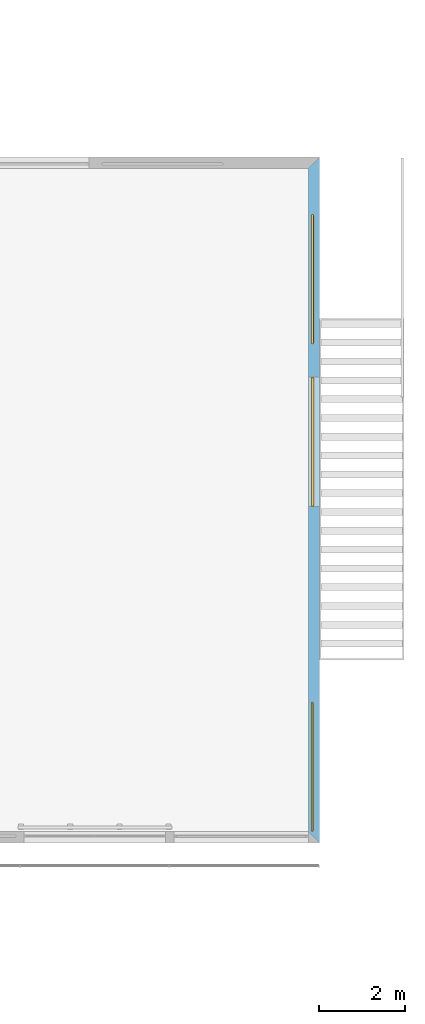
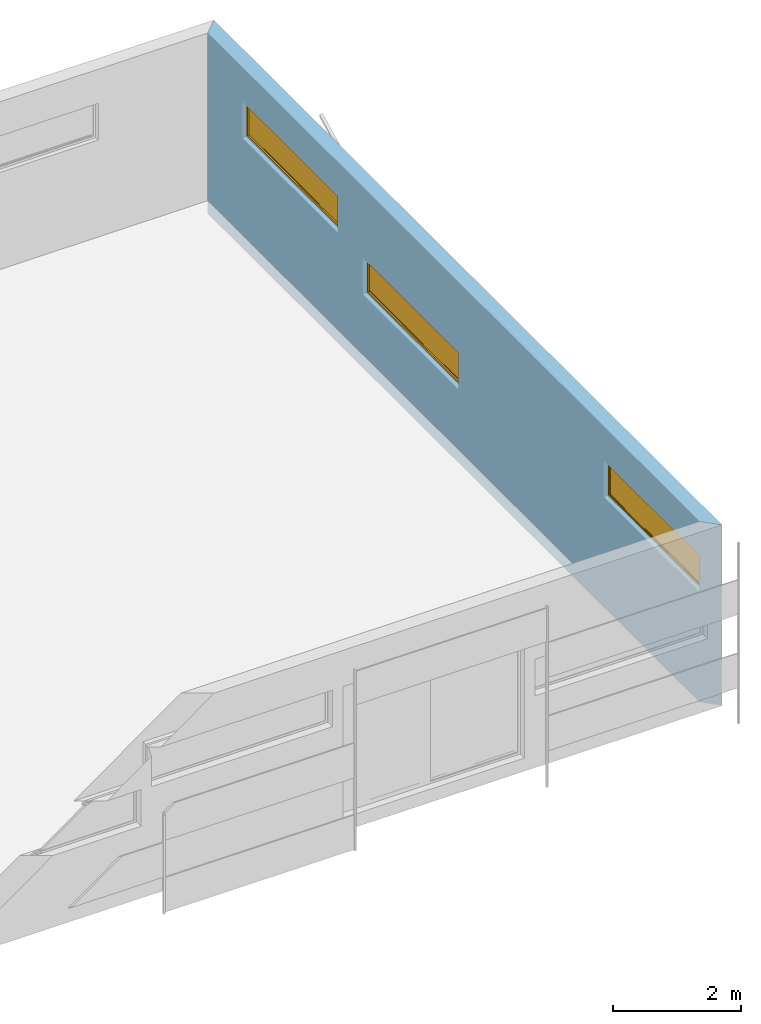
# One storey, part 12 of 14: 3 windows, 3 openings, plus 1 element that does not belong to this part.
"""IFC2X3 building model written with IfcOpenShell, lengths in metres."""

from ifc_helpers import new_model, entity, si_unit, converted_unit, money_unit, direction, frame, origin_with_axes, place, context, subcontext, project, spatial, polyline, outline, extrude, open_shell, faceted_brep, surface_model, material, layer, layer_set, layer_usage, type_object, element, fill, save


model = new_model("IFC2X3")

# Units and contexts
model_context = context("Model", 3, precision=1e-05, world=origin_with_axes(), true_north=direction((0.0, 1.0)))
body_context = subcontext(model_context, "Body", "Model", "MODEL_VIEW")
ifc_project = project(units=[si_unit("LENGTHUNIT", "METRE"), si_unit("AREAUNIT", "SQUARE_METRE"), si_unit("VOLUMEUNIT", "CUBIC_METRE"), converted_unit("PLANEANGLEUNIT", "DEGREE", entity("IfcPlaneAngleMeasure", 0.0174532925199), si_unit("PLANEANGLEUNIT", "RADIAN"), dimensions=[0, 0, 0, 0, 0, 0, 0]), si_unit("SOLIDANGLEUNIT", "STERADIAN"), money_unit("EUR"), converted_unit("TIMEUNIT", "Year", entity("IfcTimeMeasure", 31556926.0), si_unit("TIMEUNIT", "SECOND"), dimensions=[0, 0, 0, 0, 0, 0, 0]), si_unit("MASSUNIT", "GRAM"), si_unit("THERMODYNAMICTEMPERATUREUNIT", "DEGREE_CELSIUS"), si_unit("LUMINOUSINTENSITYUNIT", "LUMEN")], contexts=[model_context])

# Site, building, storey
site_placement = place(None, origin_with_axes())
site = spatial("IfcSite", under=ifc_project, at=site_placement, Name="Site", CompositionType="ELEMENT")
building_placement = place(site_placement, origin_with_axes())
building = spatial("IfcBuilding", under=site, at=building_placement, Name="Bâtiment", CompositionType="ELEMENT")
storey_placement = place(building_placement, frame((0.0, 0.0, 3.0), z_axis=(0.0, 0.0, 1.0), x_axis=(1.0, 0.0, 0.0)))
storey = spatial("IfcBuildingStorey", under=building, at=storey_placement, Name="NIVEAU HAUT ENTRÉE", CompositionType="ELEMENT", Elevation=3.0)

# Wall, openings, windows
ifc_material_1 = material(Name="Hachure solide* 3992800808")
ifc_layer_1 = layer(ifc_material_1, 0.02, ventilated="UNKNOWN")
ifc_material_2 = material(Name="Empty Fill 290923149")
ifc_layer_2 = layer(ifc_material_2, 0.08, ventilated="UNKNOWN")
ifc_material_3 = material(Name="Hachure solide* 2593434267")
ifc_layer_3 = layer(ifc_material_3, 0.16, ventilated="UNKNOWN")
ifc_layer_set = layer_set([ifc_layer_1, ifc_layer_2, ifc_layer_3], Name="•GYMN 16+10")
ifc_layer_usage = layer_usage(ifc_layer_set, "AXIS2", "POSITIVE", -0.26)
wall_type = type_object("IfcWallType", Name="•GYMN 16+10 260", PredefinedType="NOTDEFINED")
wall_placement = place(storey_placement, frame((67.258457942, 21.758815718, -0.25), z_axis=(0.0, 0.0, 1.0), x_axis=(0.0, -1.0, 0.0)))
wall = element("IfcWallStandardCase", 1, at=wall_placement, inside=storey, type_object=wall_type, material=ifc_layer_usage, Name="Mur-005", context=body_context, shape_type="SweptSolid", body=[
    extrude(outline(polyline([(0.26, -0.26), (15.63, -0.26), (15.89, 0.0), (0.0, 0.0), (0.26, -0.26)])), origin_with_axes(), (0.0, 0.0, 1.0), 3.45),
])
opening_1_placement = place(wall_placement, frame((14.13, 0.0, 2.1), z_axis=(0.0, 0.0, 1.0), x_axis=(1.0, 0.0, 0.0)))
opening_1 = element("IfcOpeningElement", 2, at=opening_1_placement, cuts=wall, Name="Fen-027", context=body_context, shape_type="SweptSolid", body=[
    extrude(outline(polyline([(-1.5, 0.7), (-1.5, 0.0), (1.5, 0.0), (1.5, 0.7), (-1.5, 0.7)])), frame((0.0, -0.18, 0.0), z_axis=(0.0, 1.0, 0.0), x_axis=(-1.0, 0.0, 0.0)), (0.0, 0.0, 1.0), 0.44),
    extrude(outline(polyline([(-1.5, 0.0), (-1.5, -0.7), (1.5, -0.7), (1.5, 0.0), (-1.5, 0.0)])), frame((0.0, -0.18, 0.0), z_axis=(0.0, -1.0, 0.0), x_axis=(-1.0, 0.0, 0.0)), (0.0, 0.0, 1.0), 0.34),
])
opening_2_placement = place(wall_placement, frame((6.5953377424, 0.0, 1.4), z_axis=(0.0, 0.0, 1.0), x_axis=(1.0, 0.0, 0.0)))
opening_2 = element("IfcOpeningElement", 3, at=opening_2_placement, cuts=wall, Name="Fen-027", context=body_context, shape_type="SweptSolid", body=[
    extrude(outline(polyline([(-1.5, 0.7), (-1.5, 0.0), (1.5, 0.0), (1.5, 0.7), (-1.5, 0.7)])), frame((0.0, -0.18, 0.0), z_axis=(0.0, 1.0, 0.0), x_axis=(-1.0, 0.0, 0.0)), (0.0, 0.0, 1.0), 0.44),
    extrude(outline(polyline([(-1.5, 0.0), (-1.5, -0.7), (1.5, -0.7), (1.5, 0.0), (-1.5, 0.0)])), frame((0.0, -0.18, 0.0), z_axis=(0.0, -1.0, 0.0), x_axis=(-1.0, 0.0, 0.0)), (0.0, 0.0, 1.0), 0.34),
])
opening_3_placement = place(wall_placement, frame((2.8314866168, 0.0, 2.1), z_axis=(0.0, 0.0, 1.0), x_axis=(1.0, 0.0, 0.0)))
opening_3 = element("IfcOpeningElement", 4, at=opening_3_placement, cuts=wall, Name="Fen-027", context=body_context, shape_type="SweptSolid", body=[
    extrude(outline(polyline([(-1.5, 0.7), (-1.5, 0.0), (1.5, 0.0), (1.5, 0.7), (-1.5, 0.7)])), frame((0.0, -0.18, 0.0), z_axis=(0.0, 1.0, 0.0), x_axis=(-1.0, 0.0, 0.0)), (0.0, 0.0, 1.0), 0.44),
    extrude(outline(polyline([(-1.5, 0.0), (-1.5, -0.7), (1.5, -0.7), (1.5, 0.0), (-1.5, 0.0)])), frame((0.0, -0.18, 0.0), z_axis=(0.0, -1.0, 0.0), x_axis=(-1.0, 0.0, 0.0)), (0.0, 0.0, 1.0), 0.34),
])
ifc_material_4 = material(Name="Sans Trame")
window_style_1 = type_object("IfcWindowStyle", Name="Fen bascule 1 10", ConstructionType="NOTDEFINED", OperationType="SINGLE_PANEL", ParameterTakesPrecedence=False, Sizeable=False)
window_1_placement = place(opening_1_placement, frame((1.5, 0.0, 0.0), z_axis=(0.0, 0.0, 1.0), x_axis=(-1.0, 0.0, 0.0)))
window_1 = element("IfcWindow", 5, at=window_1_placement, inside=storey, type_object=window_style_1, material=ifc_material_4, Name="Fen-027", OverallHeight=0.7, OverallWidth=3.0, context=body_context, shape_type="SurfaceModel", body=[
    faceted_brep([(0.015, 0.15, 0.67), (0.015, 0.165, 0.67), (0.03, 0.165, 0.67), (0.03, 0.18, 0.67), (0.0, 0.18, 0.67), (0.0, 0.15, 0.67), (0.015, 0.15, 0.03), (0.015, 0.165, 0.03), (0.03, 0.165, 0.03), (0.03, 0.18, 0.03), (0.0, 0.18, 0.03), (0.0, 0.15, 0.03)], [[[0, 1, 2, 3, 4, 5]], [[1, 0, 6, 7]], [[8, 2, 1, 7]], [[2, 8, 9, 3]], [[4, 3, 9, 10]], [[5, 4, 10, 11]], [[6, 0, 5, 11]], [[7, 6, 11, 10, 9, 8]]]),
    faceted_brep([(2.97, 0.165, 0.67), (2.985, 0.165, 0.67), (2.985, 0.15, 0.67), (3.0, 0.15, 0.67), (3.0, 0.18, 0.67), (2.97, 0.18, 0.67), (2.97, 0.165, 0.03), (2.985, 0.165, 0.03), (2.985, 0.15, 0.03), (3.0, 0.15, 0.03), (3.0, 0.18, 0.03), (2.97, 0.18, 0.03)], [[[0, 1, 2, 3, 4, 5]], [[1, 0, 6, 7]], [[8, 2, 1, 7]], [[2, 8, 9, 3]], [[9, 10, 4, 3]], [[10, 11, 5, 4]], [[6, 0, 5, 11]], [[7, 6, 11, 10, 9, 8]]]),
    faceted_brep([(0.015, 0.15, 0.67), (0.015, 0.15, 0.685), (2.985, 0.15, 0.685), (2.985, 0.15, 0.67), (3.0, 0.15, 0.67), (3.0, 0.15, 0.7), (0.0, 0.15, 0.7), (0.0, 0.15, 0.67), (0.015, 0.165, 0.67), (0.015, 0.165, 0.685), (2.985, 0.165, 0.685), (2.985, 0.165, 0.67), (2.97, 0.165, 0.67), (2.97, 0.18, 0.67), (3.0, 0.18, 0.67), (3.0, 0.18, 0.7), (0.0, 0.18, 0.7), (0.0, 0.18, 0.67), (0.03, 0.18, 0.67), (0.03, 0.165, 0.67)], [[[0, 1, 2, 3, 4, 5, 6, 7]], [[1, 0, 8, 9]], [[2, 1, 9, 10]], [[3, 2, 10, 11]], [[11, 12, 13, 14, 4, 3]], [[4, 14, 15, 5]], [[5, 15, 16, 6]], [[6, 16, 17, 7]], [[8, 0, 7, 17, 18, 19]], [[12, 11, 10, 9, 8, 19]], [[12, 19, 18, 13]], [[14, 13, 18, 17, 16, 15]]]),
    faceted_brep([(2.97, 0.165, 0.03), (2.985, 0.165, 0.03), (2.985, 0.15, 0.03), (3.0, 0.15, 0.03), (3.0, 0.18, 0.03), (2.97, 0.18, 0.03), (0.03, 0.165, 0.03), (0.015, 0.165, 0.03), (0.015, 0.165, 0.015), (2.985, 0.165, 0.015), (2.985, 0.15, 0.015), (0.015, 0.15, 0.015), (0.015, 0.15, 0.03), (0.0, 0.15, 0.03), (0.0, 0.15, 0.0), (3.0, 0.15, 0.0), (3.0, 0.18, 0.0), (0.0, 0.18, 0.03), (0.03, 0.18, 0.03), (0.0, 0.18, 0.0)], [[[0, 1, 2, 3, 4, 5]], [[1, 0, 6, 7, 8, 9]], [[10, 2, 1, 9]], [[11, 12, 13, 14, 15, 3, 2, 10]], [[15, 16, 4, 3]], [[17, 18, 5, 4, 16, 19]], [[6, 0, 5, 18]], [[7, 6, 18, 17, 13, 12]], [[7, 12, 11, 8]], [[11, 10, 9, 8]], [[13, 17, 19, 14]], [[14, 19, 16, 15]]]),
    faceted_brep([(2.955, 0.165, 0.045), (2.955, 0.135, 0.045), (2.955, 0.135, 0.655), (2.955, 0.165, 0.655), (2.985, 0.165, 0.045), (2.985, 0.135, 0.045), (2.985, 0.135, 0.655), (2.985, 0.165, 0.655)], [[[0, 1, 2, 3]], [[4, 5, 1, 0]], [[1, 5, 6, 2]], [[3, 2, 6, 7]], [[0, 3, 7, 4]], [[7, 6, 5, 4]]]),
    faceted_brep([(0.015, 0.165, 0.045), (0.015, 0.135, 0.045), (0.015, 0.135, 0.655), (0.015, 0.165, 0.655), (0.045, 0.165, 0.045), (0.045, 0.135, 0.045), (0.045, 0.135, 0.655), (0.045, 0.165, 0.655)], [[[0, 1, 2, 3]], [[4, 5, 1, 0]], [[1, 5, 6, 2]], [[3, 2, 6, 7]], [[0, 3, 7, 4]], [[7, 6, 5, 4]]]),
    faceted_brep([(0.015, 0.165, 0.015), (0.015, 0.135, 0.015), (0.015, 0.135, 0.045), (0.015, 0.165, 0.045), (2.985, 0.165, 0.015), (2.985, 0.135, 0.015), (2.985, 0.135, 0.045), (2.955, 0.135, 0.045), (0.045, 0.135, 0.045), (0.045, 0.165, 0.045), (2.955, 0.165, 0.045), (2.985, 0.165, 0.045)], [[[0, 1, 2, 3]], [[4, 5, 1, 0]], [[1, 5, 6, 7, 8, 2]], [[3, 2, 8, 9]], [[0, 3, 9, 10, 11, 4]], [[11, 6, 5, 4]], [[10, 7, 6, 11]], [[9, 8, 7, 10]]]),
    faceted_brep([(2.985, 0.165, 0.685), (2.985, 0.135, 0.685), (2.985, 0.135, 0.655), (2.985, 0.165, 0.655), (0.015, 0.165, 0.685), (0.015, 0.135, 0.685), (0.015, 0.135, 0.655), (0.045, 0.135, 0.655), (2.955, 0.135, 0.655), (2.955, 0.165, 0.655), (0.045, 0.165, 0.655), (0.015, 0.165, 0.655)], [[[0, 1, 2, 3]], [[4, 5, 1, 0]], [[1, 5, 6, 7, 8, 2]], [[3, 2, 8, 9]], [[0, 3, 9, 10, 11, 4]], [[11, 6, 5, 4]], [[10, 7, 6, 11]], [[9, 8, 7, 10]]]),
    surface_model("IfcShellBasedSurfaceModel", [(2.955, 0.16, 0.045), (0.045, 0.16, 0.045), (0.045, 0.16, 0.655), (2.955, 0.16, 0.655)], [open_shell([[[0, 1, 2, 3]]])]),
    surface_model("IfcShellBasedSurfaceModel", [(2.955, 0.14, 0.045), (2.955, 0.14, 0.655), (0.045, 0.14, 0.655), (0.045, 0.14, 0.045)], [open_shell([[[0, 1, 2, 3]]])]),
])
fill(opening_1, window_1)
window_style_2 = type_object("IfcWindowStyle", Name="Fen bascule 1 10", ConstructionType="NOTDEFINED", OperationType="SINGLE_PANEL", ParameterTakesPrecedence=False, Sizeable=False)
window_2_placement = place(opening_2_placement, frame((1.5, 0.0, 0.0), z_axis=(0.0, 0.0, 1.0), x_axis=(-1.0, 0.0, 0.0)))
window_2 = element("IfcWindow", 6, at=window_2_placement, inside=storey, type_object=window_style_2, material=ifc_material_4, Name="Fen-027", OverallHeight=0.7, OverallWidth=3.0, context=body_context, shape_type="SurfaceModel", body=[
    faceted_brep([(0.02, 0.14, 0.66), (0.02, 0.155, 0.66), (0.04, 0.155, 0.66), (0.04, 0.18, 0.66), (0.0, 0.18, 0.66), (0.0, 0.14, 0.66), (0.02, 0.14, 0.04), (0.02, 0.155, 0.04), (0.04, 0.155, 0.04), (0.04, 0.18, 0.04), (0.0, 0.18, 0.04), (0.0, 0.14, 0.04)], [[[0, 1, 2, 3, 4, 5]], [[1, 0, 6, 7]], [[8, 2, 1, 7]], [[2, 8, 9, 3]], [[4, 3, 9, 10]], [[5, 4, 10, 11]], [[6, 0, 5, 11]], [[7, 6, 11, 10, 9, 8]]]),
    faceted_brep([(2.96, 0.155, 0.66), (2.98, 0.155, 0.66), (2.98, 0.14, 0.66), (3.0, 0.14, 0.66), (3.0, 0.18, 0.66), (2.96, 0.18, 0.66), (2.96, 0.155, 0.04), (2.98, 0.155, 0.04), (2.98, 0.14, 0.04), (3.0, 0.14, 0.04), (3.0, 0.18, 0.04), (2.96, 0.18, 0.04)], [[[0, 1, 2, 3, 4, 5]], [[1, 0, 6, 7]], [[8, 2, 1, 7]], [[2, 8, 9, 3]], [[9, 10, 4, 3]], [[10, 11, 5, 4]], [[6, 0, 5, 11]], [[7, 6, 11, 10, 9, 8]]]),
    faceted_brep([(0.02, 0.14, 0.66), (0.02, 0.14, 0.68), (2.98, 0.14, 0.68), (2.98, 0.14, 0.66), (3.0, 0.14, 0.66), (3.0, 0.14, 0.7), (0.0, 0.14, 0.7), (0.0, 0.14, 0.66), (0.02, 0.155, 0.66), (0.02, 0.155, 0.68), (2.98, 0.155, 0.68), (2.98, 0.155, 0.66), (2.96, 0.155, 0.66), (2.96, 0.18, 0.66), (3.0, 0.18, 0.66), (3.0, 0.18, 0.7), (0.0, 0.18, 0.7), (0.0, 0.18, 0.66), (0.04, 0.18, 0.66), (0.04, 0.155, 0.66)], [[[0, 1, 2, 3, 4, 5, 6, 7]], [[1, 0, 8, 9]], [[2, 1, 9, 10]], [[3, 2, 10, 11]], [[11, 12, 13, 14, 4, 3]], [[4, 14, 15, 5]], [[5, 15, 16, 6]], [[6, 16, 17, 7]], [[8, 0, 7, 17, 18, 19]], [[12, 11, 10, 9, 8, 19]], [[12, 19, 18, 13]], [[14, 13, 18, 17, 16, 15]]]),
    faceted_brep([(2.96, 0.155, 0.04), (2.98, 0.155, 0.04), (2.98, 0.14, 0.04), (3.0, 0.14, 0.04), (3.0, 0.18, 0.04), (2.96, 0.18, 0.04), (0.04, 0.155, 0.04), (0.02, 0.155, 0.04), (0.02, 0.155, 0.02), (2.98, 0.155, 0.02), (2.98, 0.14, 0.02), (0.02, 0.14, 0.02), (0.02, 0.14, 0.04), (0.0, 0.14, 0.04), (0.0, 0.14, 0.0), (3.0, 0.14, 0.0), (3.0, 0.18, 0.0), (0.0, 0.18, 0.04), (0.04, 0.18, 0.04), (0.0, 0.18, 0.0)], [[[0, 1, 2, 3, 4, 5]], [[1, 0, 6, 7, 8, 9]], [[10, 2, 1, 9]], [[11, 12, 13, 14, 15, 3, 2, 10]], [[15, 16, 4, 3]], [[17, 18, 5, 4, 16, 19]], [[6, 0, 5, 18]], [[7, 6, 18, 17, 13, 12]], [[7, 12, 11, 8]], [[11, 10, 9, 8]], [[13, 17, 19, 14]], [[14, 19, 16, 15]]]),
    faceted_brep([(2.95, 0.155, 0.05), (2.95, 0.125, 0.05), (2.95, 0.125, 0.65), (2.95, 0.155, 0.65), (2.98, 0.155, 0.05), (2.98, 0.125, 0.05), (2.98, 0.125, 0.65), (2.98, 0.155, 0.65)], [[[0, 1, 2, 3]], [[4, 5, 1, 0]], [[1, 5, 6, 2]], [[3, 2, 6, 7]], [[0, 3, 7, 4]], [[7, 6, 5, 4]]]),
    faceted_brep([(0.02, 0.155, 0.05), (0.02, 0.125, 0.05), (0.02, 0.125, 0.65), (0.02, 0.155, 0.65), (0.05, 0.155, 0.05), (0.05, 0.125, 0.05), (0.05, 0.125, 0.65), (0.05, 0.155, 0.65)], [[[0, 1, 2, 3]], [[4, 5, 1, 0]], [[1, 5, 6, 2]], [[3, 2, 6, 7]], [[0, 3, 7, 4]], [[7, 6, 5, 4]]]),
    faceted_brep([(0.02, 0.155, 0.02), (0.02, 0.125, 0.02), (0.02, 0.125, 0.05), (0.02, 0.155, 0.05), (2.98, 0.155, 0.02), (2.98, 0.125, 0.02), (2.98, 0.125, 0.05), (2.95, 0.125, 0.05), (0.05, 0.125, 0.05), (0.05, 0.155, 0.05), (2.95, 0.155, 0.05), (2.98, 0.155, 0.05)], [[[0, 1, 2, 3]], [[4, 5, 1, 0]], [[1, 5, 6, 7, 8, 2]], [[3, 2, 8, 9]], [[0, 3, 9, 10, 11, 4]], [[11, 6, 5, 4]], [[10, 7, 6, 11]], [[9, 8, 7, 10]]]),
    faceted_brep([(2.98, 0.155, 0.68), (2.98, 0.125, 0.68), (2.98, 0.125, 0.65), (2.98, 0.155, 0.65), (0.02, 0.155, 0.68), (0.02, 0.125, 0.68), (0.02, 0.125, 0.65), (0.05, 0.125, 0.65), (2.95, 0.125, 0.65), (2.95, 0.155, 0.65), (0.05, 0.155, 0.65), (0.02, 0.155, 0.65)], [[[0, 1, 2, 3]], [[4, 5, 1, 0]], [[1, 5, 6, 7, 8, 2]], [[3, 2, 8, 9]], [[0, 3, 9, 10, 11, 4]], [[11, 6, 5, 4]], [[10, 7, 6, 11]], [[9, 8, 7, 10]]]),
    surface_model("IfcShellBasedSurfaceModel", [(2.95, 0.15, 0.05), (0.05, 0.15, 0.05), (0.05, 0.15, 0.65), (2.95, 0.15, 0.65)], [open_shell([[[0, 1, 2, 3]]])]),
    surface_model("IfcShellBasedSurfaceModel", [(2.95, 0.13, 0.05), (2.95, 0.13, 0.65), (0.05, 0.13, 0.65), (0.05, 0.13, 0.05)], [open_shell([[[0, 1, 2, 3]]])]),
])
fill(opening_2, window_2)
window_3_placement = place(opening_3_placement, frame((1.5, 0.0, 0.0), z_axis=(0.0, 0.0, 1.0), x_axis=(-1.0, 0.0, 0.0)))
window_3 = element("IfcWindow", 7, at=window_3_placement, inside=storey, type_object=window_style_2, material=ifc_material_4, Name="Fen-027", OverallHeight=0.7, OverallWidth=3.0, context=body_context, shape_type="SurfaceModel", body=[
    faceted_brep([(0.02, 0.14, 0.66), (0.02, 0.155, 0.66), (0.04, 0.155, 0.66), (0.04, 0.18, 0.66), (0.0, 0.18, 0.66), (0.0, 0.14, 0.66), (0.02, 0.14, 0.04), (0.02, 0.155, 0.04), (0.04, 0.155, 0.04), (0.04, 0.18, 0.04), (0.0, 0.18, 0.04), (0.0, 0.14, 0.04)], [[[0, 1, 2, 3, 4, 5]], [[1, 0, 6, 7]], [[8, 2, 1, 7]], [[2, 8, 9, 3]], [[4, 3, 9, 10]], [[5, 4, 10, 11]], [[6, 0, 5, 11]], [[7, 6, 11, 10, 9, 8]]]),
    faceted_brep([(2.96, 0.155, 0.66), (2.98, 0.155, 0.66), (2.98, 0.14, 0.66), (3.0, 0.14, 0.66), (3.0, 0.18, 0.66), (2.96, 0.18, 0.66), (2.96, 0.155, 0.04), (2.98, 0.155, 0.04), (2.98, 0.14, 0.04), (3.0, 0.14, 0.04), (3.0, 0.18, 0.04), (2.96, 0.18, 0.04)], [[[0, 1, 2, 3, 4, 5]], [[1, 0, 6, 7]], [[8, 2, 1, 7]], [[2, 8, 9, 3]], [[9, 10, 4, 3]], [[10, 11, 5, 4]], [[6, 0, 5, 11]], [[7, 6, 11, 10, 9, 8]]]),
    faceted_brep([(0.02, 0.14, 0.66), (0.02, 0.14, 0.68), (2.98, 0.14, 0.68), (2.98, 0.14, 0.66), (3.0, 0.14, 0.66), (3.0, 0.14, 0.7), (0.0, 0.14, 0.7), (0.0, 0.14, 0.66), (0.02, 0.155, 0.66), (0.02, 0.155, 0.68), (2.98, 0.155, 0.68), (2.98, 0.155, 0.66), (2.96, 0.155, 0.66), (2.96, 0.18, 0.66), (3.0, 0.18, 0.66), (3.0, 0.18, 0.7), (0.0, 0.18, 0.7), (0.0, 0.18, 0.66), (0.04, 0.18, 0.66), (0.04, 0.155, 0.66)], [[[0, 1, 2, 3, 4, 5, 6, 7]], [[1, 0, 8, 9]], [[2, 1, 9, 10]], [[3, 2, 10, 11]], [[11, 12, 13, 14, 4, 3]], [[4, 14, 15, 5]], [[5, 15, 16, 6]], [[6, 16, 17, 7]], [[8, 0, 7, 17, 18, 19]], [[12, 11, 10, 9, 8, 19]], [[12, 19, 18, 13]], [[14, 13, 18, 17, 16, 15]]]),
    faceted_brep([(2.96, 0.155, 0.04), (2.98, 0.155, 0.04), (2.98, 0.14, 0.04), (3.0, 0.14, 0.04), (3.0, 0.18, 0.04), (2.96, 0.18, 0.04), (0.04, 0.155, 0.04), (0.02, 0.155, 0.04), (0.02, 0.155, 0.02), (2.98, 0.155, 0.02), (2.98, 0.14, 0.02), (0.02, 0.14, 0.02), (0.02, 0.14, 0.04), (0.0, 0.14, 0.04), (0.0, 0.14, 0.0), (3.0, 0.14, 0.0), (3.0, 0.18, 0.0), (0.0, 0.18, 0.04), (0.04, 0.18, 0.04), (0.0, 0.18, 0.0)], [[[0, 1, 2, 3, 4, 5]], [[1, 0, 6, 7, 8, 9]], [[10, 2, 1, 9]], [[11, 12, 13, 14, 15, 3, 2, 10]], [[15, 16, 4, 3]], [[17, 18, 5, 4, 16, 19]], [[6, 0, 5, 18]], [[7, 6, 18, 17, 13, 12]], [[7, 12, 11, 8]], [[11, 10, 9, 8]], [[13, 17, 19, 14]], [[14, 19, 16, 15]]]),
    faceted_brep([(2.95, 0.155, 0.05), (2.95, 0.125, 0.05), (2.95, 0.125, 0.65), (2.95, 0.155, 0.65), (2.98, 0.155, 0.05), (2.98, 0.125, 0.05), (2.98, 0.125, 0.65), (2.98, 0.155, 0.65)], [[[0, 1, 2, 3]], [[4, 5, 1, 0]], [[1, 5, 6, 2]], [[3, 2, 6, 7]], [[0, 3, 7, 4]], [[7, 6, 5, 4]]]),
    faceted_brep([(0.02, 0.155, 0.05), (0.02, 0.125, 0.05), (0.02, 0.125, 0.65), (0.02, 0.155, 0.65), (0.05, 0.155, 0.05), (0.05, 0.125, 0.05), (0.05, 0.125, 0.65), (0.05, 0.155, 0.65)], [[[0, 1, 2, 3]], [[4, 5, 1, 0]], [[1, 5, 6, 2]], [[3, 2, 6, 7]], [[0, 3, 7, 4]], [[7, 6, 5, 4]]]),
    faceted_brep([(0.02, 0.155, 0.02), (0.02, 0.125, 0.02), (0.02, 0.125, 0.05), (0.02, 0.155, 0.05), (2.98, 0.155, 0.02), (2.98, 0.125, 0.02), (2.98, 0.125, 0.05), (2.95, 0.125, 0.05), (0.05, 0.125, 0.05), (0.05, 0.155, 0.05), (2.95, 0.155, 0.05), (2.98, 0.155, 0.05)], [[[0, 1, 2, 3]], [[4, 5, 1, 0]], [[1, 5, 6, 7, 8, 2]], [[3, 2, 8, 9]], [[0, 3, 9, 10, 11, 4]], [[11, 6, 5, 4]], [[10, 7, 6, 11]], [[9, 8, 7, 10]]]),
    faceted_brep([(2.98, 0.155, 0.68), (2.98, 0.125, 0.68), (2.98, 0.125, 0.65), (2.98, 0.155, 0.65), (0.02, 0.155, 0.68), (0.02, 0.125, 0.68), (0.02, 0.125, 0.65), (0.05, 0.125, 0.65), (2.95, 0.125, 0.65), (2.95, 0.155, 0.65), (0.05, 0.155, 0.65), (0.02, 0.155, 0.65)], [[[0, 1, 2, 3]], [[4, 5, 1, 0]], [[1, 5, 6, 7, 8, 2]], [[3, 2, 8, 9]], [[0, 3, 9, 10, 11, 4]], [[11, 6, 5, 4]], [[10, 7, 6, 11]], [[9, 8, 7, 10]]]),
    surface_model("IfcShellBasedSurfaceModel", [(2.95, 0.15, 0.05), (0.05, 0.15, 0.05), (0.05, 0.15, 0.65), (2.95, 0.15, 0.65)], [open_shell([[[0, 1, 2, 3]]])]),
    surface_model("IfcShellBasedSurfaceModel", [(2.95, 0.13, 0.05), (2.95, 0.13, 0.65), (0.05, 0.13, 0.65), (0.05, 0.13, 0.05)], [open_shell([[[0, 1, 2, 3]]])]),
])
fill(opening_3, window_3)

save(model, "model.ifc")
